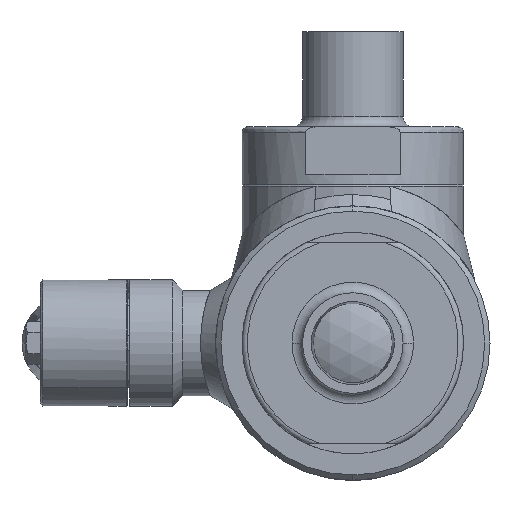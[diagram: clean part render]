
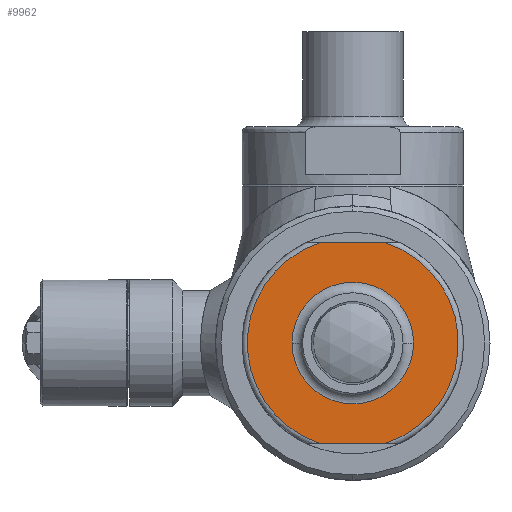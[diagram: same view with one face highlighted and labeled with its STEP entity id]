
A CAD part, left-side view. The second image highlights one B-rep face of the part: STEP entity #9962.
In plain terms, the highlighted planar face has unit normal (-1, 0, 0).
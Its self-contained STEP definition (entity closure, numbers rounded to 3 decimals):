
#9479=DIRECTION('',(0.,-1.,0.));
#9480=VECTOR('',#9479,12.49);
#9481=CARTESIAN_POINT('',(-41.,6.245,19.));
#9482=LINE('',#9481,#9480);
#9486=DIRECTION('',(0.,-1.,0.));
#9487=VECTOR('',#9486,12.49);
#9488=CARTESIAN_POINT('',(-41.,6.245,-19.));
#9489=LINE('',#9488,#9487);
#9493=CARTESIAN_POINT('',(-41.,0.,0.));
#9494=DIRECTION('',(1.,0.,0.));
#9495=DIRECTION('',(0.,1.,0.));
#9496=AXIS2_PLACEMENT_3D('',#9493,#9494,#9495);
#9525=CARTESIAN_POINT('',(-41.,0.,0.));
#9526=DIRECTION('',(-1.,0.,0.));
#9527=DIRECTION('',(0.,1.,0.));
#9528=AXIS2_PLACEMENT_3D('',#9525,#9526,#9527);
#9677=CARTESIAN_POINT('',(-41.,0.,0.));
#9678=DIRECTION('',(-1.,0.,0.));
#9679=DIRECTION('',(0.,-0.312,-0.95));
#9680=AXIS2_PLACEMENT_3D('',#9677,#9678,#9679);
#9698=CARTESIAN_POINT('',(-41.,-6.245,19.));
#9719=CARTESIAN_POINT('',(-41.,-6.245,-19.));
#9753=CARTESIAN_POINT('',(-41.,6.245,19.));
#9771=CARTESIAN_POINT('',(-41.,0.,0.));
#9772=DIRECTION('',(-1.,0.,0.));
#9773=DIRECTION('',(0.,0.312,0.95));
#9774=AXIS2_PLACEMENT_3D('',#9771,#9772,#9773);
#9792=CARTESIAN_POINT('',(-41.,6.245,-19.));
#9909=VERTEX_POINT('',#9719);
#9910=VERTEX_POINT('',#9792);
#9911=VERTEX_POINT('',#9753);
#9912=VERTEX_POINT('',#9698);
#9917=CARTESIAN_POINT('',(-41.,11.525,0.));
#9918=CARTESIAN_POINT('',(-41.,-11.525,0.));
#9919=VERTEX_POINT('',#9917);
#9920=VERTEX_POINT('',#9918);
#9941=CARTESIAN_POINT('',(-41.,0.,0.));
#9942=DIRECTION('',(-1.,0.,0.));
#9943=DIRECTION('',(0.,-1.,0.));
#9944=AXIS2_PLACEMENT_3D('',#9941,#9942,#9943);
#9945=PLANE('',#9944);
#9947=ORIENTED_EDGE('',*,*,#9946,.F.);
#9949=ORIENTED_EDGE('',*,*,#9948,.T.);
#9951=ORIENTED_EDGE('',*,*,#9950,.F.);
#9953=ORIENTED_EDGE('',*,*,#9952,.F.);
#9954=EDGE_LOOP('',(#9947,#9949,#9951,#9953));
#9955=FACE_OUTER_BOUND('',#9954,.F.);
#9957=ORIENTED_EDGE('',*,*,#9956,.F.);
#9959=ORIENTED_EDGE('',*,*,#9958,.T.);
#9960=EDGE_LOOP('',(#9957,#9959));
#9961=FACE_BOUND('',#9960,.F.);
#9962=ADVANCED_FACE('',(#9955,#9961),#9945,.T.);
#9497=CIRCLE('',#9496,11.525);
#9529=CIRCLE('',#9528,11.525);
#9681=CIRCLE('',#9680,20.);
#9775=CIRCLE('',#9774,20.);
#9946=EDGE_CURVE('',#9911,#9910,#9775,.T.);
#9948=EDGE_CURVE('',#9911,#9912,#9482,.T.);
#9950=EDGE_CURVE('',#9909,#9912,#9681,.T.);
#9952=EDGE_CURVE('',#9910,#9909,#9489,.T.);
#9956=EDGE_CURVE('',#9919,#9920,#9497,.T.);
#9958=EDGE_CURVE('',#9919,#9920,#9529,.T.);
